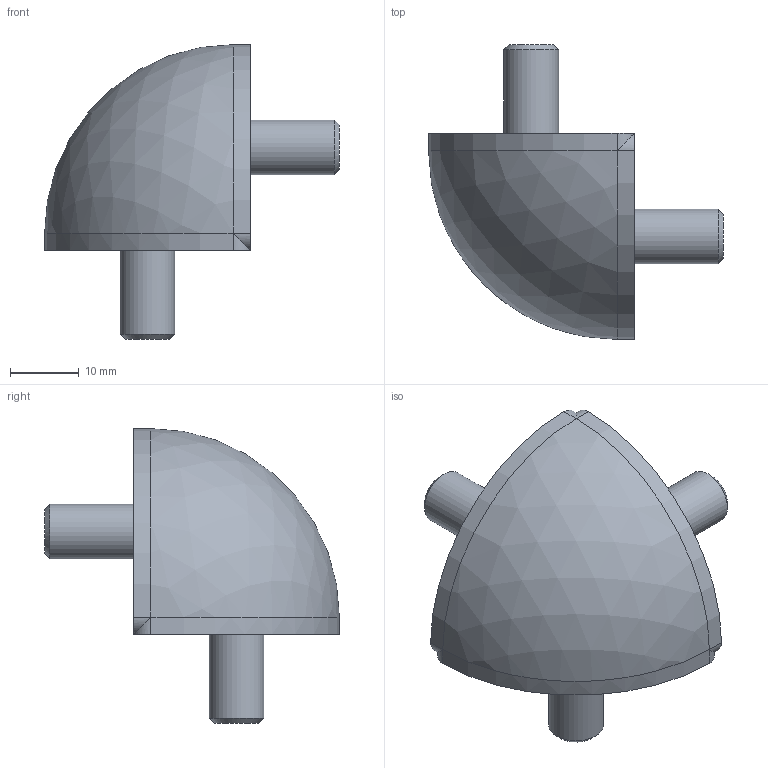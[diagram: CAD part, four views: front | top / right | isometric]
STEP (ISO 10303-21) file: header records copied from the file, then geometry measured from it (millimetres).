
FILE_DESCRIPTION((''),'2;1');
FILE_NAME('C:\Andys Backup Data\WEBSITE\DREAMWEAVER\MiniTec\Products\30 SERIES PROFILES\CAD\STEP\21.2109 ANGLE 30 R 90.stp','2013-12-04T16:31:15',('Admin'),(''),'Autodesk Inventor 2012','Autodesk Inventor 2012','');
FILE_SCHEMA(('AUTOMOTIVE_DESIGN { 1 0 10303 214 1 1 1 1 }'));
Length unit declared in the file: millimetre
Products named in the file (4): 21.2109 ANGLE 30 R 90 CAP; ANGLE 30 R 90 BRACKET; ANGLE 30 R 90 CAP; 21.1200 M8 x 16
Assembly tree (5 placements, depth 2):
  21.2109 ANGLE 30 R 90 CAP
    ANGLE 30 R 90 BRACKET
    ANGLE 30 R 90 CAP
    21.1200 M8 x 16  x3
Bounding box: 43 x 43 x 43 mm (x, y, z)
Volume: 11954.2 mm3; surface area: 9863.4 mm2
Topology: 5 solids, 5 shells, 203 faces, 492 edges, 299 vertices
Faces by surface type: plane 90, cylinder 68, sphere 18, bspline 10, cone 9, torus 8
Full cylindrical faces by diameter (mm): 2 x1, 4 x2, 5 x1, 8 x3, 8.5 x1, 13 x3
Entity records: 6341 total; most frequent: CARTESIAN_POINT 2124, DIRECTION 917, ORIENTED_EDGE 814, EDGE_CURVE 407, AXIS2_PLACEMENT_3D 361, VERTEX_POINT 254, EDGE_LOOP 199, VECTOR 195
